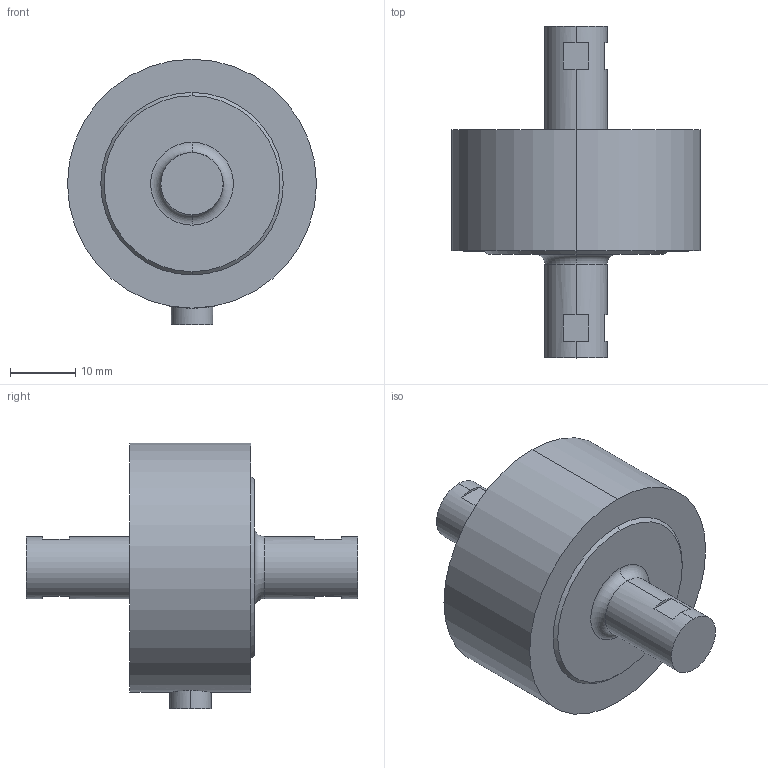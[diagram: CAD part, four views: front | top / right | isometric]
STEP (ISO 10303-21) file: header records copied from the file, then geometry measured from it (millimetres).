
FILE_DESCRIPTION (( 'STEP AP214' ), '1' );
FILE_NAME ('FINAL ASBY SS1309-100IN-LB.STEP', '2024-08-12T15:16:36', ( '' ), ( '' ), 'SwSTEP 2.0', 'SolidWorks 2008', '' );
FILE_SCHEMA (( 'AUTOMOTIVE_DESIGN' ));
Length unit declared in the file: inch
Products named in the file (1): FINAL ASBY SS1309-100IN-LB
Bounding box: 38.1 x 50.8 x 40.64 mm (x, y, z)
Volume: 23776.2 mm3; surface area: 5511.7 mm2
Topology: 1 solids, 1 shells, 36 faces, 85 edges, 56 vertices
Faces by surface type: plane 24, cylinder 8, torus 2, cone 2
Entity records: 1142 total; most frequent: CARTESIAN_POINT 246, DIRECTION 197, ORIENTED_EDGE 170, EDGE_CURVE 85, AXIS2_PLACEMENT_3D 79, VERTEX_POINT 56, CIRCLE 42, EDGE_LOOP 41
